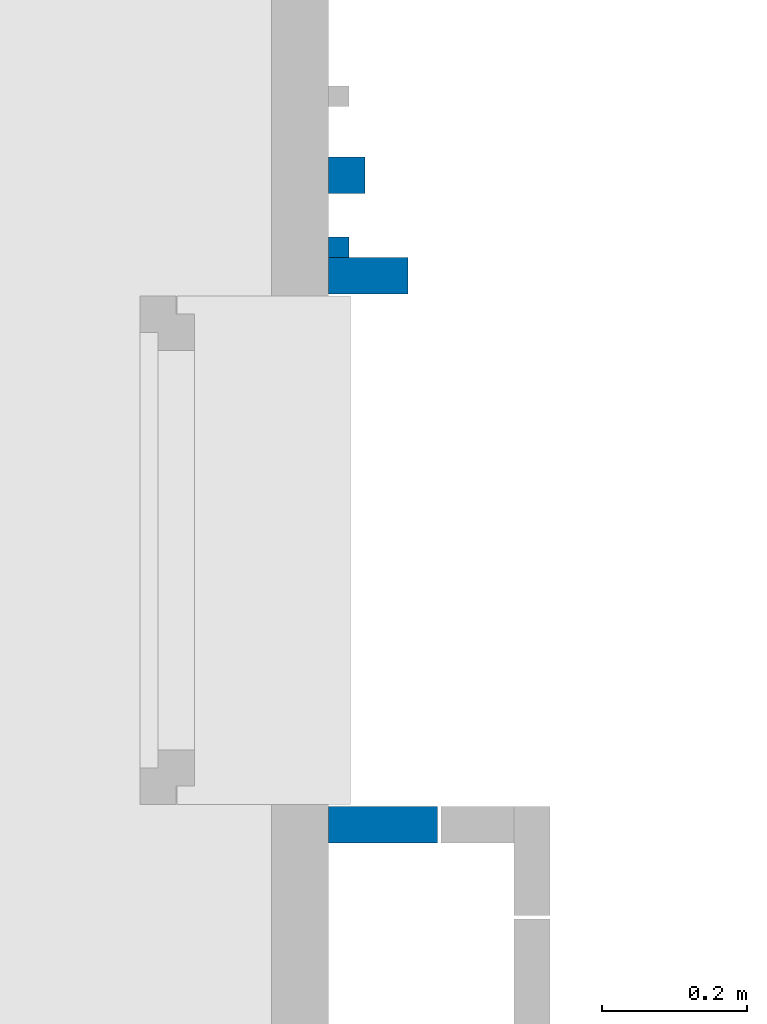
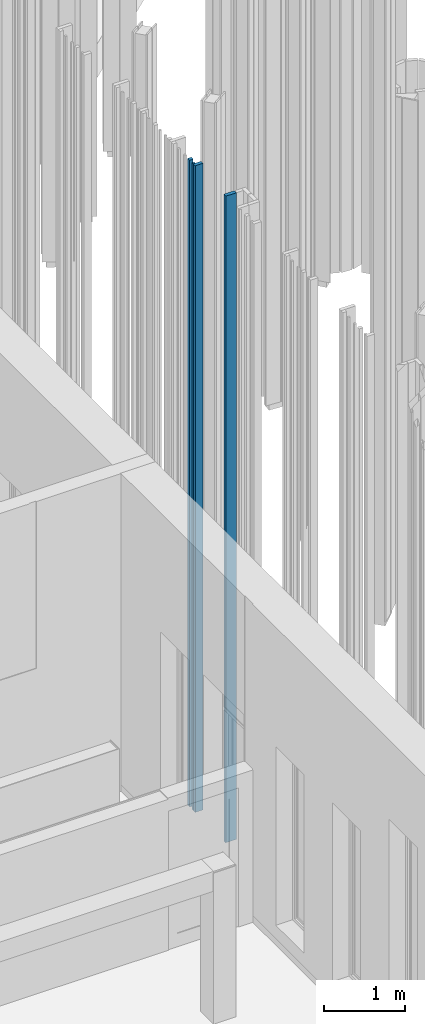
# One storey, part 186 of 390: 4 walls.
"""IFC2X3 building model written with IfcOpenShell, lengths in millimetres."""

from ifc_helpers import new_model, entity, si_unit, converted_unit, derived_unit, money_unit, direction, frame, origin_with_axes, place, context, subcontext, project, spatial, faceted_brep, material, type_object, element, save


model = new_model("IFC2X3")

# Units and contexts
model_context = context("Model", 3, precision=1e-05, world=origin_with_axes(), true_north=direction((0.0, 1.0)))
body_context = subcontext(model_context, "Body", "Model", "MODEL_VIEW")
ifc_project = project(units=[si_unit("LENGTHUNIT", "METRE", prefix="MILLI"), si_unit("AREAUNIT", "SQUARE_METRE"), si_unit("VOLUMEUNIT", "CUBIC_METRE"), converted_unit("PLANEANGLEUNIT", "DEGREE", entity("IfcPlaneAngleMeasure", 0.0174532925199), si_unit("PLANEANGLEUNIT", "RADIAN"), dimensions=[0, 0, 0, 0, 0, 0, 0]), si_unit("SOLIDANGLEUNIT", "STERADIAN"), money_unit("EUR"), converted_unit("TIMEUNIT", "Year", entity("IfcTimeMeasure", 31556926.0), si_unit("TIMEUNIT", "SECOND"), dimensions=[0, 0, 1, 0, 0, 0, 0]), si_unit("MASSUNIT", "GRAM", prefix="KILO"), si_unit("THERMODYNAMICTEMPERATUREUNIT", "DEGREE_CELSIUS"), si_unit("LUMINOUSINTENSITYUNIT", "LUMEN"), si_unit("ENERGYUNIT", "JOULE", prefix="MEGA"), derived_unit("THERMALCONDUCTANCEUNIT", [(si_unit("POWERUNIT", "WATT"), 1), (si_unit("LENGTHUNIT", "METRE"), -1), (si_unit("THERMODYNAMICTEMPERATUREUNIT", "KELVIN"), -1)]), derived_unit("SPECIFICHEATCAPACITYUNIT", [(si_unit("ENERGYUNIT", "JOULE"), 1), (si_unit("MASSUNIT", "GRAM", prefix="KILO"), -1), (si_unit("THERMODYNAMICTEMPERATUREUNIT", "KELVIN"), -1)]), derived_unit("MASSDENSITYUNIT", [(si_unit("MASSUNIT", "GRAM", prefix="KILO"), 1), (si_unit("VOLUMEUNIT", "CUBIC_METRE"), -1)])], contexts=[model_context])

# Site, building, storey
site_placement = place(None, origin_with_axes())
site = spatial("IfcSite", under=ifc_project, at=site_placement, Name="Site", CompositionType="ELEMENT")
building_placement = place(site_placement, origin_with_axes())
building = spatial("IfcBuilding", under=site, at=building_placement, Name="Building", CompositionType="ELEMENT")
storey_placement = place(building_placement, origin_with_axes())
storey = spatial("IfcBuildingStorey", under=building, at=storey_placement, Name="1 korrus", CompositionType="ELEMENT", Elevation=0.0)

# Walls
ifc_material = material(Name="Site specified")
wall_type_1 = type_object("IfcWallType", Name="Puitfassaadi ribistik", PredefinedType="NOTDEFINED")
wall_1_placement = place(storey_placement, frame((139811.999998, 56116.0000087, 100.000000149), z_axis=(0.0, 0.0, 1.0), x_axis=(0.0, -1.0, 0.0)))
element("IfcWall", 1, at=wall_1_placement, inside=storey, type_object=wall_type_1, material=ifc_material, Name="Site specified", context=body_context, shape_type="Brep", body=[
    faceted_brep([(-25.0, -25.0, 9764.99999985), (-25.0, -25.0, 0.0), (25.0, -25.0, 0.0), (25.0, -25.0, 9764.99999985), (-25.0, 25.0, 9764.99999985), (-25.0, 25.0, 0.0), (25.0, 25.0, 0.0), (25.0, 25.0, 9764.99999985)], [[[0, 1, 2, 3]], [[4, 5, 1, 0]], [[2, 1, 5, 6]], [[3, 2, 6, 7]], [[4, 0, 3, 7]], [[7, 6, 5, 4]]]),
])
wall_2_placement = place(storey_placement, frame((139800.999998, 56016.8244713, 100.000000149), z_axis=(0.0, 0.0, 1.0), x_axis=(0.0, -1.0, 0.0)))
element("IfcWall", 2, at=wall_2_placement, inside=storey, type_object=wall_type_1, material=ifc_material, Name="Site specified", context=body_context, shape_type="Brep", body=[
    faceted_brep([(-14.0, -14.0, 9764.99999985), (-14.0, -14.0, 0.0), (14.0, -14.0, 0.0), (14.0, -14.0, 9764.99999985), (-14.0, 14.0, 9764.99999985), (-14.0, 14.0, 0.0), (14.0, 14.0, 0.0), (14.0, 14.0, 9764.99999985)], [[[0, 1, 2, 3]], [[4, 5, 1, 0]], [[2, 1, 5, 6]], [[3, 2, 6, 7]], [[4, 0, 3, 7]], [[7, 6, 5, 4]]]),
])
wall_3_placement = place(storey_placement, frame((139841.499998, 55977.8244713, 100.000000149), z_axis=(0.0, 0.0, 1.0), x_axis=(0.0, -1.0, 0.0)))
element("IfcWall", 3, at=wall_3_placement, inside=storey, type_object=wall_type_1, material=ifc_material, Name="Site specified", context=body_context, shape_type="Brep", body=[
    faceted_brep([(-25.0, -54.5, 9764.99999985), (-25.0, -54.5, 0.0), (25.0, -54.5, 0.0), (25.0, -54.5, 9764.99999985), (-25.0, 54.5, 9764.99999985), (-25.0, 54.5, 0.0), (25.0, 54.5, 0.0), (25.0, 54.5, 9764.99999985)], [[[0, 1, 2, 3]], [[4, 5, 1, 0]], [[2, 1, 5, 6]], [[3, 2, 6, 7]], [[4, 0, 3, 7]], [[7, 6, 5, 4]]]),
])
wall_type_2 = type_object("IfcWallType", Name="Puitfassaadi ribisik", PredefinedType="NOTDEFINED")
wall_4_placement = place(storey_placement, frame((139861.999993, 55221.8244569, 100.000000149), z_axis=(0.0, 0.0, 1.0), x_axis=(-1.92421249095e-07, -1.0, 0.0)))
element("IfcWall", 4, at=wall_4_placement, inside=storey, type_object=wall_type_2, material=ifc_material, Name="Site specified", context=body_context, shape_type="Brep", body=[
    faceted_brep([(-25.0, -75.0, 9764.99999475), (-25.0, -75.0, 0.0), (25.0, -75.0, 0.0), (25.0, -75.0, 9764.99999475), (-25.0, 75.0, 9764.99999475), (-25.0, 75.0, 0.0), (25.0, 75.0, 0.0), (25.0, 75.0, 9764.99999475)], [[[0, 1, 2, 3]], [[4, 5, 1, 0]], [[2, 1, 5, 6]], [[3, 2, 6, 7]], [[4, 0, 3, 7]], [[7, 6, 5, 4]]]),
])

save(model, "model.ifc")
